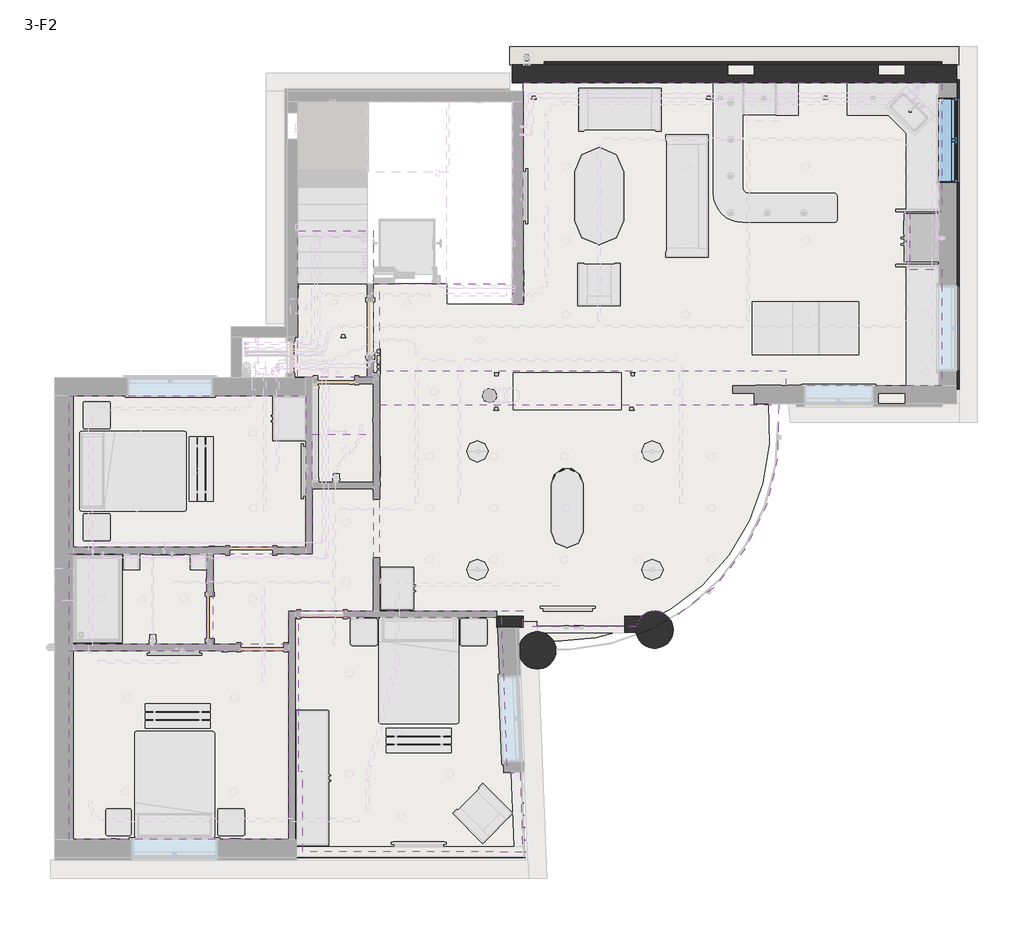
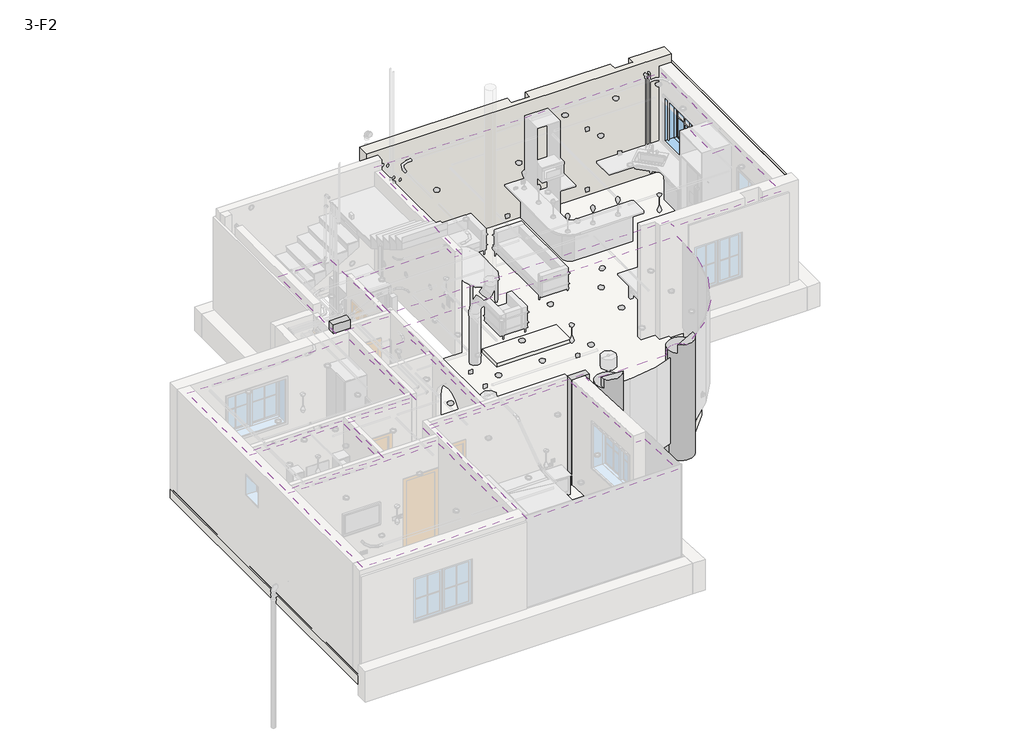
# One storey, part 3 of 12: 8 coverings, 5 columns, 4 walls, 2 slabs, 1 window.
"""IFC4 building model written with IfcOpenShell, lengths in millimetres."""

from ifc_helpers import new_model, si_unit, point, frame, frame_2d, origin, place, context, project, spatial, polyline, circle_curve, trimmed, segment, composite_curve, outline, extrude, faceted_brep, transform, mapped, element, save
from ifc_brep_helpers import plane_surface, cylinder_surface, revolved_surface, advanced_brep
from components import m_window_casement_double_1600_x_1300mm_8a1cf402

model = new_model("IFC4")

# Units and contexts
model_context = context("Model", 3, world=origin())
ifc_project = project(units=[si_unit("LENGTHUNIT", "METRE", prefix="MILLI")], contexts=[model_context])

# Site, building, storey
site = spatial("IfcSite", under=ifc_project)
building = spatial("IfcBuilding", under=site)
storey = spatial("IfcBuildingStorey", under=building, Name="3-F2", Elevation=6550.0)

# Columns
placement = place(None, origin())
element("IfcColumn", 1, ObjectType="M_Concrete-Rectangular-Column : 200 x470mm", at=placement, inside=storey, context=model_context, shape_type="SweptSolid", body=[
    extrude(outline(polyline([(-5057.4765921, 3134.4560655), (-5057.4765921, 3334.4560655), (-4587.4765921, 3334.4560655), (-4587.4765921, 3134.4560655), (-5057.4765921, 3134.4560655)])), frame((0.0, 0.0, 6550.0), z_axis=(0.0, 0.0, 1.0), x_axis=(1.0, 0.0, 0.0)), (0.0, 0.0, 1.0), 3350.0),
])
element("IfcColumn", 2, ObjectType="M_Concrete-Rectangular-Column : 200 x500mm", at=placement, inside=storey, context=model_context, shape_type="Brep", body=[
    faceted_brep([(-1127.3482991, -1357.1632352, 6550.0), (-1127.3482991, -1157.1632352, 6550.0), (-627.3482991, -1157.1632352, 6550.0), (-627.3482991, -1357.1632352, 6550.0), (-761.6689188, -1357.1632352, 6550.0), (-1101.9400272, -1357.1632352, 6550.0), (-1127.3482991, -1357.1632352, 9650.0), (-1127.3482991, -1157.1632352, 9650.0), (-627.3482991, -1157.1632352, 9650.0), (-627.3482991, -1357.1632352, 9650.0), (-761.6689188, -1357.1632352, 9650.0), (-1101.9400272, -1357.1632352, 9650.0)], [[[0, 1, 2, 3, 4, 5]], [[1, 0, 6, 7]], [[2, 1, 7, 8]], [[3, 2, 8, 9]], [[0, 5, 4, 3, 9, 10, 11, 6]], [[7, 6, 11, 10, 9, 8]]]),
])
element("IfcColumn", 3, ObjectType="M_Concrete-Rectangular-Column : 300 x300mm", at=placement, inside=storey, context=model_context, shape_type="SweptSolid", body=[
    extrude(outline(polyline([(1585.0321009, -1157.1632352), (1585.0321009, -1457.1632352), (1285.0321009, -1457.1632352), (1285.0321009, -1157.1632352), (1585.0321009, -1157.1632352)])), frame((0.0, 0.0, 6550.0), z_axis=(0.0, 0.0, 1.0), x_axis=(1.0, 0.0, 0.0)), (0.0, 0.0, 1.0), 2170.0),
])
element("IfcColumn", 4, ObjectType="M_Concrete-Round-Column : 700mm", at=placement, inside=storey, context=model_context, shape_type="AdvancedBrep", body=[
    advanced_brep(
    [(2191.661449, -1407.3470383, 6550.0), (1491.661449, -1407.3470383, 6550.0), (2191.661449, -1407.3470383, 9900.0), (2191.0757881, -1387.1079771, 9900.0), (1607.691221, -1667.6505773, 9900.0), (1607.691221, -1667.6505773, 9650.0), (1491.661449, -1407.3470383, 9650.0), (2191.0757881, -1387.1079771, 9650.0)],
    [
        (0, 1, circle_curve(frame((1841.661449, -1407.3470383, 6550.0), z_axis=(0.0, 0.0, -1.0), x_axis=(-1.0, 0.0, 0.0)), 350.0)),
        (1, 0, circle_curve(frame((1841.661449, -1407.3470383, 6550.0), z_axis=(0.0, 0.0, -1.0), x_axis=(-1.0, 0.0, 0.0)), 350.0)),
        (2, 3, circle_curve(frame((1841.661449, -1407.3470383, 9900.0), z_axis=(0.0, 0.0, 1.0), x_axis=(-1.0, 0.0, 0.0)), 350.0)),
        (3, 4, circle_curve(frame((41.3341283, 2336.4094323, 9900.0), z_axis=(0.0, 0.0, -1.0), x_axis=(1.0, 0.0, 0.0)), 4299.531498)),
        (4, 2, circle_curve(frame((1841.661449, -1407.3470383, 9900.0), z_axis=(0.0, 0.0, 1.0), x_axis=(-1.0, 0.0, 0.0)), 350.0)),
        (0, 2),
        (4, 5),
        (5, 6, circle_curve(frame((1841.661449, -1407.3470383, 9650.0), z_axis=(0.0, 0.0, -1.0), x_axis=(-1.0, 0.0, 0.0)), 350.0)),
        (6, 1),
        (6, 7, circle_curve(frame((1841.661449, -1407.3470383, 9650.0), z_axis=(0.0, 0.0, -1.0), x_axis=(-1.0, 0.0, 0.0)), 350.0)),
        (7, 3),
        (5, 7, circle_curve(frame((41.3341283, 2336.4094323, 9650.0), z_axis=(0.0, 0.0, 1.0), x_axis=(1.0, 0.0, 0.0)), 4299.531498)),
    ],
    [
        plane_surface(frame((1491.661449, -1407.3470383, 6550.0), z_axis=(0.0, 0.0, -1.0), x_axis=(0.0, 1.0, 0.0))),
        plane_surface(frame((1491.661449, -1407.3470383, 9900.0), z_axis=(0.0, 0.0, 1.0), x_axis=(0.0, -1.0, 0.0))),
        cylinder_surface(frame((1841.661449, -1407.3470383, 6550.0), z_axis=(0.0, 0.0, 1.0), x_axis=(-1.0, 0.0, 0.0)), 350.0),
        plane_surface(frame((-6107.4765921, 4642.9313171, 9650.0), z_axis=(0.0, 0.0, 1.0), x_axis=(0.0, 1.0, 0.0))),
        revolved_surface(polyline([(4340.8656263, 2336.4094323, 9650.0), (4340.8656263, 2336.4094323, 9900.0)]), (41.3341283, 2336.4094323, 9950.0), (0.0, 0.0, -1.0)),
    ],
    [
        (0, [[1, 2]]),
        (1, [[3, 4, 5]]),
        (2, [[-1, 6, -5, 7, 8, 9]]),
        (2, [[-2, -9, 10, 11, -3, -6]]),
        (3, [[12, -10, -8]]),
        (4, [[-12, -7, -4, -11]]),
    ],
),
])
element("IfcColumn", 5, ObjectType="M_Concrete-Round-Column : 700mm", at=placement, inside=storey, context=model_context, shape_type="AdvancedBrep", body=[
    advanced_brep(
    [(-11.9654842, -1796.5977201, 6550.0), (-711.9654842, -1796.5977201, 6550.0), (-627.4765921, -2024.64125, 9900.0), (-53.5545328, -1962.0748638, 9900.0), (-627.4765921, -1910.7853269, 9900.0), (-11.9654842, -1796.5977201, 9650.0), (-53.5545328, -1962.0748638, 9650.0), (-627.4765921, -2024.64125, 9650.0), (-711.9654842, -1796.5977201, 9650.0), (-627.4765921, -1910.7853269, 9650.0)],
    [
        (0, 1, circle_curve(frame((-361.9654842, -1796.5977201, 6550.0), z_axis=(0.0, 0.0, -1.0), x_axis=(1.0, 0.0, 0.0)), 350.0)),
        (1, 0, circle_curve(frame((-361.9654842, -1796.5977201, 6550.0), z_axis=(0.0, 0.0, -1.0), x_axis=(1.0, 0.0, 0.0)), 350.0)),
        (2, 3, circle_curve(frame((-361.9654842, -1796.5977201, 9900.0), z_axis=(0.0, 0.0, 1.0), x_axis=(1.0, 0.0, 0.0)), 350.0)),
        (3, 4, circle_curve(frame((41.3341283, 2336.4094323, 9900.0), z_axis=(0.0, 0.0, -1.0), x_axis=(1.0, 0.0, 0.0)), 4299.531498)),
        (4, 2),
        (0, 5),
        (5, 6, circle_curve(frame((-361.9654842, -1796.5977201, 9650.0), z_axis=(0.0, 0.0, -1.0), x_axis=(1.0, 0.0, 0.0)), 350.0)),
        (6, 3),
        (2, 7),
        (7, 8, circle_curve(frame((-361.9654842, -1796.5977201, 9650.0), z_axis=(0.0, 0.0, -1.0), x_axis=(1.0, 0.0, 0.0)), 350.0)),
        (8, 1),
        (8, 5, circle_curve(frame((-361.9654842, -1796.5977201, 9650.0), z_axis=(0.0, 0.0, -1.0), x_axis=(1.0, 0.0, 0.0)), 350.0)),
        (7, 9),
        (9, 6, circle_curve(frame((41.3341283, 2336.4094323, 9650.0), z_axis=(0.0, 0.0, 1.0), x_axis=(1.0, 0.0, 0.0)), 4299.531498)),
        (4, 9),
    ],
    [
        plane_surface(frame((-11.9654842, -1796.5977201, 6550.0), z_axis=(0.0, 0.0, -1.0), x_axis=(0.0, 1.0, 0.0))),
        plane_surface(frame((-11.9654842, -1796.5977201, 9900.0), z_axis=(0.0, 0.0, 1.0), x_axis=(0.0, -1.0, 0.0))),
        cylinder_surface(frame((-361.9654842, -1796.5977201, 6550.0), z_axis=(0.0, 0.0, 1.0), x_axis=(1.0, 0.0, 0.0)), 350.0),
        plane_surface(frame((-6107.4765921, 4642.9313171, 9650.0), z_axis=(0.0, 0.0, 1.0), x_axis=(0.0, 1.0, 0.0))),
        plane_surface(frame((-627.4765921, -1910.7853269, 9650.0), z_axis=(-1.0, 0.0, 0.0), x_axis=(0.0, 0.0, 1.0))),
        revolved_surface(polyline([(4340.8656263, 2336.4094323, 9650.0), (4340.8656263, 2336.4094323, 9900.0)]), (41.3341283, 2336.4094323, 9950.0), (0.0, 0.0, -1.0)),
    ],
    [
        (0, [[1, 2]]),
        (1, [[3, 4, 5]]),
        (2, [[-1, 6, 7, 8, -3, 9, 10, 11]]),
        (2, [[-2, -11, 12, -6]]),
        (3, [[13, 14, -7, -12, -10]]),
        (4, [[-13, -9, -5, 15]]),
        (5, [[-14, -15, -4, -8]]),
    ],
),
])

# Coverings
element("IfcCovering", 6, ObjectType="Plain", at=placement, inside=storey, context=model_context, shape_type="SweptSolid", body=[
    extrude(outline(polyline([(7235.5234079, 8861.6620874), (7235.5234079, 6437.9358549), (6635.5234079, 6437.9358549), (6635.5234079, 5357.9486583), (7235.5234079, 5357.9486583), (7235.5234079, 3170.7214801), (4312.5234079, 3170.7214801), (4312.5234079, 3441.636834), (-3317.6151583, 3441.636834), (-3317.6151583, 4204.4560655), (-3317.6151583, 5084.4560655), (-827.4765921, 5084.4560655), (-827.4765921, 4701.6620874), (-627.4765921, 4701.6620874), (-627.4765921, 8861.6620874), (7235.5234079, 8861.6620874)]), holes=[composite_curve([segment(trimmed(circle_curve(frame_2d((6925.5234079, 7285.2358549)), 75.0), [point((6850.5234079, 7285.2358549))], [point((7000.5234079, 7285.2358549))], True, "CARTESIAN"), True, "CONTINUOUS"), segment(trimmed(circle_curve(frame_2d((6925.5234079, 7285.2358549)), 75.0), [point((7000.5234079, 7285.2358549))], [point((6850.5234079, 7285.2358549))], True, "CARTESIAN"), True, "CONTINUOUS")], self_intersect=False), composite_curve([segment(trimmed(circle_curve(frame_2d((6925.5234079, 4510.6486583)), 75.0), [point((6850.5234079, 4510.6486583))], [point((7000.5234079, 4510.6486583))], True, "CARTESIAN"), True, "CONTINUOUS"), segment(trimmed(circle_curve(frame_2d((6925.5234079, 4510.6486583)), 75.0), [point((7000.5234079, 4510.6486583))], [point((6850.5234079, 4510.6486583))], True, "CARTESIAN"), True, "CONTINUOUS")], self_intersect=False), composite_curve([segment(trimmed(circle_curve(frame_2d((4676.2824473, 5897.9422566)), 75.0), [point((4601.2824473, 5897.9422566))], [point((4751.2824473, 5897.9422566))], True, "CARTESIAN"), True, "CONTINUOUS"), segment(trimmed(circle_curve(frame_2d((4676.2824473, 5897.9422566)), 75.0), [point((4751.2824473, 5897.9422566))], [point((4601.2824473, 5897.9422566))], True, "CARTESIAN"), True, "CONTINUOUS")], self_intersect=False), composite_curve([segment(trimmed(circle_curve(frame_2d((4676.2824473, 7285.2358549)), 75.0), [point((4751.2824473, 7285.2358549))], [point((4601.2824473, 7285.2358549))], True, "CARTESIAN"), True, "CONTINUOUS"), segment(trimmed(circle_curve(frame_2d((4676.2824473, 7285.2358549)), 75.0), [point((4601.2824473, 7285.2358549))], [point((4751.2824473, 7285.2358549))], True, "CARTESIAN"), True, "CONTINUOUS")], self_intersect=False), composite_curve([segment(trimmed(circle_curve(frame_2d((2427.0414867, 4510.6486583)), 75.0), [point((2352.0414867, 4510.6486583))], [point((2502.0414867, 4510.6486583))], True, "CARTESIAN"), True, "CONTINUOUS"), segment(trimmed(circle_curve(frame_2d((2427.0414867, 4510.6486583)), 75.0), [point((2502.0414867, 4510.6486583))], [point((2352.0414867, 4510.6486583))], True, "CARTESIAN"), True, "CONTINUOUS")], self_intersect=False), composite_curve([segment(trimmed(circle_curve(frame_2d((2427.0414867, 5897.9422566)), 75.0), [point((2352.0414867, 5897.9422566))], [point((2502.0414867, 5897.9422566))], True, "CARTESIAN"), True, "CONTINUOUS"), segment(trimmed(circle_curve(frame_2d((2427.0414867, 5897.9422566)), 75.0), [point((2502.0414867, 5897.9422566))], [point((2352.0414867, 5897.9422566))], True, "CARTESIAN"), True, "CONTINUOUS")], self_intersect=False), composite_curve([segment(trimmed(circle_curve(frame_2d((2427.0414867, 7285.2358549)), 75.0), [point((2502.0414867, 7285.2358549))], [point((2352.0414867, 7285.2358549))], True, "CARTESIAN"), True, "CONTINUOUS"), segment(trimmed(circle_curve(frame_2d((2427.0414867, 7285.2358549)), 75.0), [point((2352.0414867, 7285.2358549))], [point((2502.0414867, 7285.2358549))], True, "CARTESIAN"), True, "CONTINUOUS")], self_intersect=False), composite_curve([segment(trimmed(circle_curve(frame_2d((177.8005261, 4510.6486583)), 75.0), [point((102.8005261, 4510.6486583))], [point((252.8005261, 4510.6486583))], True, "CARTESIAN"), True, "CONTINUOUS"), segment(trimmed(circle_curve(frame_2d((177.8005261, 4510.6486583)), 75.0), [point((252.8005261, 4510.6486583))], [point((102.8005261, 4510.6486583))], True, "CARTESIAN"), True, "CONTINUOUS")], self_intersect=False), composite_curve([segment(trimmed(circle_curve(frame_2d((177.8005261, 5897.9422566)), 75.0), [point((102.8005261, 5897.9422566))], [point((252.8005261, 5897.9422566))], True, "CARTESIAN"), True, "CONTINUOUS"), segment(trimmed(circle_curve(frame_2d((177.8005261, 5897.9422566)), 75.0), [point((252.8005261, 5897.9422566))], [point((102.8005261, 5897.9422566))], True, "CARTESIAN"), True, "CONTINUOUS")], self_intersect=False), composite_curve([segment(trimmed(circle_curve(frame_2d((177.8005261, 7285.2358549)), 75.0), [point((252.8005261, 7285.2358549))], [point((102.8005261, 7285.2358549))], True, "CARTESIAN"), True, "CONTINUOUS"), segment(trimmed(circle_curve(frame_2d((177.8005261, 7285.2358549)), 75.0), [point((102.8005261, 7285.2358549))], [point((252.8005261, 7285.2358549))], True, "CARTESIAN"), True, "CONTINUOUS")], self_intersect=False), composite_curve([segment(trimmed(circle_curve(frame_2d((5759.0971754, 8451.6620874)), 75.0), [point((5759.0971754, 8376.6620874))], [point((5759.0971754, 8526.6620874))], True, "CARTESIAN"), True, "CONTINUOUS"), segment(trimmed(circle_curve(frame_2d((5759.0971754, 8451.6620874)), 75.0), [point((5759.0971754, 8526.6620874))], [point((5759.0971754, 8376.6620874))], True, "CARTESIAN"), True, "CONTINUOUS")], self_intersect=False), composite_curve([segment(trimmed(circle_curve(frame_2d((-2807.4765921, 4726.4560655)), 75.0), [point((-2882.4765921, 4726.4560655))], [point((-2732.4765921, 4726.4560655))], True, "CARTESIAN"), True, "CONTINUOUS"), segment(trimmed(circle_curve(frame_2d((-2807.4765921, 4726.4560655)), 75.0), [point((-2732.4765921, 4726.4560655))], [point((-2882.4765921, 4726.4560655))], True, "CARTESIAN"), True, "CONTINUOUS")], self_intersect=False), composite_curve([segment(trimmed(circle_curve(frame_2d((6925.5234079, 3441.636834)), 75.0), [point((6850.5234079, 3441.636834))], [point((7000.5234079, 3441.636834))], True, "CARTESIAN"), True, "CONTINUOUS"), segment(trimmed(circle_curve(frame_2d((6925.5234079, 3441.636834)), 75.0), [point((7000.5234079, 3441.636834))], [point((6850.5234079, 3441.636834))], True, "CARTESIAN"), True, "CONTINUOUS")], self_intersect=False), composite_curve([segment(trimmed(circle_curve(frame_2d((6925.5234079, 8451.6620874)), 75.0), [point((6850.5234079, 8451.6620874))], [point((7000.5234079, 8451.6620874))], True, "CARTESIAN"), True, "CONTINUOUS"), segment(trimmed(circle_curve(frame_2d((6925.5234079, 8451.6620874)), 75.0), [point((7000.5234079, 8451.6620874))], [point((6850.5234079, 8451.6620874))], True, "CARTESIAN"), True, "CONTINUOUS")], self_intersect=False), composite_curve([segment(trimmed(circle_curve(frame_2d((4364.4971754, 8451.6620874)), 75.0), [point((4364.4971754, 8376.6620874))], [point((4364.4971754, 8526.6620874))], True, "CARTESIAN"), True, "CONTINUOUS"), segment(trimmed(circle_curve(frame_2d((4364.4971754, 8451.6620874)), 75.0), [point((4364.4971754, 8526.6620874))], [point((4364.4971754, 8376.6620874))], True, "CARTESIAN"), True, "CONTINUOUS")], self_intersect=False)]), frame((0.0, 0.0, 9450.0), z_axis=(0.0, 0.0, 1.0), x_axis=(1.0, 0.0, 0.0)), (0.0, 0.0, 1.0), 12.0),
])
element("IfcCovering", 7, ObjectType="Plain", at=placement, inside=storey, context=model_context, shape_type="SweptSolid", body=[
    extrude(outline(composite_curve([segment(polyline([(4169.1002411, 2811.636834), (4147.2558901, 1806.6689939), (3955.4172345, 962.9964388), (3544.1689772, 114.6100968), (2953.7829196, -616.7390717), (2139.821213, -1224.0419508)]), True, "CONTINUOUS"), segment(trimmed(circle_curve(frame_2d((1841.661449, -1407.3470383)), 350.0), [point((2139.821213, -1224.0419508))], [point((1496.3455737, -1350.2773764))], True, "CARTESIAN"), True, "CONTINUOUS"), segment(polyline([(1496.3455737, -1350.2773764), (424.0164993, -1350.2773764), (-627.3482991, -1350.2773764), (-627.3482991, -1057.1632352), (-3317.6151583, -1057.1632352), (-3317.6151583, 2811.636834), (4169.1002411, 2811.636834)]), True, "CONTINUOUS")], self_intersect=False), holes=[composite_curve([segment(trimmed(circle_curve(frame_2d((2906.3219274, 1844.6820281)), 75.0), [point((2831.3219274, 1844.6820281))], [point((2981.3219274, 1844.6820281))], True, "CARTESIAN"), True, "CONTINUOUS"), segment(trimmed(circle_curve(frame_2d((2906.3219274, 1844.6820281)), 75.0), [point((2981.3219274, 1844.6820281))], [point((2831.3219274, 1844.6820281))], True, "CARTESIAN"), True, "CONTINUOUS")], self_intersect=False), composite_curve([segment(trimmed(circle_curve(frame_2d((2906.3219274, -89.7180065)), 75.0), [point((2831.3219274, -89.7180065))], [point((2981.3219274, -89.7180065))], True, "CARTESIAN"), True, "CONTINUOUS"), segment(trimmed(circle_curve(frame_2d((2906.3219274, -89.7180065)), 75.0), [point((2981.3219274, -89.7180065))], [point((2831.3219274, -89.7180065))], True, "CARTESIAN"), True, "CONTINUOUS")], self_intersect=False), composite_curve([segment(trimmed(circle_curve(frame_2d((2906.3219274, 877.7272222)), 75.0), [point((2831.3219274, 877.7272222))], [point((2981.3219274, 877.7272222))], True, "CARTESIAN"), True, "CONTINUOUS"), segment(trimmed(circle_curve(frame_2d((2906.3219274, 877.7272222)), 75.0), [point((2981.3219274, 877.7272222))], [point((2831.3219274, 877.7272222))], True, "CARTESIAN"), True, "CONTINUOUS")], self_intersect=False), composite_curve([segment(trimmed(circle_curve(frame_2d((-2390.7208752, 1844.6820281)), 75.0), [point((-2465.7208752, 1844.6820281))], [point((-2315.7208752, 1844.6820281))], True, "CARTESIAN"), True, "CONTINUOUS"), segment(trimmed(circle_curve(frame_2d((-2390.7208752, 1844.6820281)), 75.0), [point((-2315.7208752, 1844.6820281))], [point((-2465.7208752, 1844.6820281))], True, "CARTESIAN"), True, "CONTINUOUS")], self_intersect=False), composite_curve([segment(trimmed(circle_curve(frame_2d((-2390.7208752, 877.7272222)), 75.0), [point((-2465.7208752, 877.7272222))], [point((-2315.7208752, 877.7272222))], True, "CARTESIAN"), True, "CONTINUOUS"), segment(trimmed(circle_curve(frame_2d((-2390.7208752, 877.7272222)), 75.0), [point((-2315.7208752, 877.7272222))], [point((-2465.7208752, 877.7272222))], True, "CARTESIAN"), True, "CONTINUOUS")], self_intersect=False), composite_curve([segment(trimmed(circle_curve(frame_2d((-2390.7208752, -89.7180065)), 75.0), [point((-2465.7208752, -89.7180065))], [point((-2315.7208752, -89.7180065))], True, "CARTESIAN"), True, "CONTINUOUS"), segment(trimmed(circle_curve(frame_2d((-2390.7208752, -89.7180065)), 75.0), [point((-2315.7208752, -89.7180065))], [point((-2465.7208752, -89.7180065))], True, "CARTESIAN"), True, "CONTINUOUS")], self_intersect=False), composite_curve([segment(trimmed(circle_curve(frame_2d((147.3848417, -89.7180065)), 75.0), [point((72.3848417, -89.7180065))], [point((222.3848417, -89.7180065))], True, "CARTESIAN"), True, "CONTINUOUS"), segment(trimmed(circle_curve(frame_2d((147.3848417, -89.7180065)), 75.0), [point((222.3848417, -89.7180065))], [point((72.3848417, -89.7180065))], True, "CARTESIAN"), True, "CONTINUOUS")], self_intersect=False), composite_curve([segment(trimmed(circle_curve(frame_2d((147.3848417, 1844.6820281)), 75.0), [point((72.3848417, 1844.6820281))], [point((222.3848417, 1844.6820281))], True, "CARTESIAN"), True, "CONTINUOUS"), segment(trimmed(circle_curve(frame_2d((147.3848417, 1844.6820281)), 75.0), [point((222.3848417, 1844.6820281))], [point((72.3848417, 1844.6820281))], True, "CARTESIAN"), True, "CONTINUOUS")], self_intersect=False), composite_curve([segment(trimmed(circle_curve(frame_2d((1542.0612267, 877.7272222)), 75.0), [point((1467.0612267, 877.7272222))], [point((1617.0612267, 877.7272222))], True, "CARTESIAN"), True, "CONTINUOUS"), segment(trimmed(circle_curve(frame_2d((1542.0612267, 877.7272222)), 75.0), [point((1617.0612267, 877.7272222))], [point((1467.0612267, 877.7272222))], True, "CARTESIAN"), True, "CONTINUOUS")], self_intersect=False), composite_curve([segment(trimmed(circle_curve(frame_2d((1542.0612267, -89.7180065)), 75.0), [point((1467.0612267, -89.7180065))], [point((1617.0612267, -89.7180065))], True, "CARTESIAN"), True, "CONTINUOUS"), segment(trimmed(circle_curve(frame_2d((1542.0612267, -89.7180065)), 75.0), [point((1617.0612267, -89.7180065))], [point((1467.0612267, -89.7180065))], True, "CARTESIAN"), True, "CONTINUOUS")], self_intersect=False), composite_curve([segment(trimmed(circle_curve(frame_2d((1542.0612267, 1844.6820281)), 75.0), [point((1467.0612267, 1844.6820281))], [point((1617.0612267, 1844.6820281))], True, "CARTESIAN"), True, "CONTINUOUS"), segment(trimmed(circle_curve(frame_2d((1542.0612267, 1844.6820281)), 75.0), [point((1617.0612267, 1844.6820281))], [point((1467.0612267, 1844.6820281))], True, "CARTESIAN"), True, "CONTINUOUS")], self_intersect=False), composite_curve([segment(trimmed(circle_curve(frame_2d((-1186.4601746, 877.7272222)), 75.0), [point((-1111.4601746, 877.7272222))], [point((-1261.4601746, 877.7272222))], True, "CARTESIAN"), True, "CONTINUOUS"), segment(trimmed(circle_curve(frame_2d((-1186.4601746, 877.7272222)), 75.0), [point((-1261.4601746, 877.7272222))], [point((-1111.4601746, 877.7272222))], True, "CARTESIAN"), True, "CONTINUOUS")], self_intersect=False), composite_curve([segment(trimmed(circle_curve(frame_2d((-1186.4601746, -89.7180065)), 75.0), [point((-1111.4601746, -89.7180065))], [point((-1261.4601746, -89.7180065))], True, "CARTESIAN"), True, "CONTINUOUS"), segment(trimmed(circle_curve(frame_2d((-1186.4601746, -89.7180065)), 75.0), [point((-1261.4601746, -89.7180065))], [point((-1111.4601746, -89.7180065))], True, "CARTESIAN"), True, "CONTINUOUS")], self_intersect=False), composite_curve([segment(trimmed(circle_curve(frame_2d((-1186.4601746, 1844.6820281)), 75.0), [point((-1111.4601746, 1844.6820281))], [point((-1261.4601746, 1844.6820281))], True, "CARTESIAN"), True, "CONTINUOUS"), segment(trimmed(circle_curve(frame_2d((-1186.4601746, 1844.6820281)), 75.0), [point((-1261.4601746, 1844.6820281))], [point((-1111.4601746, 1844.6820281))], True, "CARTESIAN"), True, "CONTINUOUS")], self_intersect=False)]), frame((0.0, 0.0, 9450.0), z_axis=(0.0, 0.0, 1.0), x_axis=(1.0, 0.0, 0.0)), (0.0, 0.0, 1.0), 12.0),
])
element("IfcCovering", 8, ObjectType="Plain", at=placement, inside=storey, context=model_context, shape_type="SweptSolid", body=[
    extrude(outline(polyline([(-9147.4765921, 2986.4863231), (-4707.4765921, 2986.4863231), (-4707.4765921, 140.1275048), (-9147.4765921, 140.1275048), (-9147.4765921, 2986.4863231)]), holes=[composite_curve([segment(trimmed(circle_curve(frame_2d((-5710.0538644, 2286.3055512)), 75.0), [point((-5785.0538644, 2286.3055512))], [point((-5635.0538644, 2286.3055512))], True, "CARTESIAN"), True, "CONTINUOUS"), segment(trimmed(circle_curve(frame_2d((-5710.0538644, 2286.3055512)), 75.0), [point((-5635.0538644, 2286.3055512))], [point((-5785.0538644, 2286.3055512))], True, "CARTESIAN"), True, "CONTINUOUS")], self_intersect=False), composite_curve([segment(trimmed(circle_curve(frame_2d((-7870.5121698, 2286.3055512)), 75.0), [point((-7945.5121698, 2286.3055512))], [point((-7795.5121698, 2286.3055512))], True, "CARTESIAN"), True, "CONTINUOUS"), segment(trimmed(circle_curve(frame_2d((-7870.5121698, 2286.3055512)), 75.0), [point((-7795.5121698, 2286.3055512))], [point((-7945.5121698, 2286.3055512))], True, "CARTESIAN"), True, "CONTINUOUS")], self_intersect=False), composite_curve([segment(trimmed(circle_curve(frame_2d((-7870.5121698, 879.1412709)), 75.0), [point((-7945.5121698, 879.1412709))], [point((-7795.5121698, 879.1412709))], True, "CARTESIAN"), True, "CONTINUOUS"), segment(trimmed(circle_curve(frame_2d((-7870.5121698, 879.1412709)), 75.0), [point((-7795.5121698, 879.1412709))], [point((-7945.5121698, 879.1412709))], True, "CARTESIAN"), True, "CONTINUOUS")], self_intersect=False), composite_curve([segment(trimmed(circle_curve(frame_2d((-5690.0538644, 879.1412709)), 75.0), [point((-5765.0538644, 879.1412709))], [point((-5615.0538644, 879.1412709))], True, "CARTESIAN"), True, "CONTINUOUS"), segment(trimmed(circle_curve(frame_2d((-5690.0538644, 879.1412709)), 75.0), [point((-5615.0538644, 879.1412709))], [point((-5765.0538644, 879.1412709))], True, "CARTESIAN"), True, "CONTINUOUS")], self_intersect=False)]), frame((0.0, 0.0, 9450.0), z_axis=(0.0, 0.0, 1.0), x_axis=(1.0, 0.0, 0.0)), (0.0, 0.0, 1.0), 12.0),
])
element("IfcCovering", 9, ObjectType="Plain", at=placement, inside=storey, context=model_context, shape_type="SweptSolid", body=[
    extrude(outline(polyline([(-9147.4765921, 20.1275048), (-6569.7814219, 20.1275048), (-6569.7814219, -1679.8724951), (-9147.4765921, -1679.8724951), (-9147.4765921, 20.1275048)]), holes=[composite_curve([segment(trimmed(circle_curve(frame_2d((-8539.0013994, -817.1632352)), 75.0), [point((-8614.0013994, -817.1632352))], [point((-8464.0013994, -817.1632352))], True, "CARTESIAN"), True, "CONTINUOUS"), segment(trimmed(circle_curve(frame_2d((-8539.0013994, -817.1632352)), 75.0), [point((-8464.0013994, -817.1632352))], [point((-8614.0013994, -817.1632352))], True, "CARTESIAN"), True, "CONTINUOUS")], self_intersect=False), composite_curve([segment(trimmed(circle_curve(frame_2d((-7722.8155815, -99.8724952)), 75.0), [point((-7797.8155815, -99.8724952))], [point((-7647.8155815, -99.8724952))], True, "CARTESIAN"), True, "CONTINUOUS"), segment(trimmed(circle_curve(frame_2d((-7722.8155815, -99.8724952)), 75.0), [point((-7647.8155815, -99.8724952))], [point((-7797.8155815, -99.8724952))], True, "CARTESIAN"), True, "CONTINUOUS")], self_intersect=False), composite_curve([segment(trimmed(circle_curve(frame_2d((-6866.9658403, -99.8724952)), 75.0), [point((-6791.9658403, -99.8724952))], [point((-6941.9658403, -99.8724952))], True, "CARTESIAN"), True, "CONTINUOUS"), segment(trimmed(circle_curve(frame_2d((-6866.9658403, -99.8724952)), 75.0), [point((-6941.9658403, -99.8724952))], [point((-6791.9658403, -99.8724952))], True, "CARTESIAN"), True, "CONTINUOUS")], self_intersect=False), composite_curve([segment(trimmed(circle_curve(frame_2d((-6992.9330801, -817.1632352)), 75.0), [point((-6917.9330801, -817.1632352))], [point((-7067.9330801, -817.1632352))], True, "CARTESIAN"), True, "CONTINUOUS"), segment(trimmed(circle_curve(frame_2d((-6992.9330801, -817.1632352)), 75.0), [point((-7067.9330801, -817.1632352))], [point((-6917.9330801, -817.1632352))], True, "CARTESIAN"), True, "CONTINUOUS")], self_intersect=False)]), frame((0.0, 0.0, 9450.0), z_axis=(0.0, 0.0, 1.0), x_axis=(1.0, 0.0, 0.0)), (0.0, 0.0, 1.0), 12.0),
])
element("IfcCovering", 10, ObjectType="Plain", at=placement, inside=storey, context=model_context, shape_type="SweptSolid", body=[
    extrude(outline(polyline([(-5025.4457195, -1799.8724951), (-5025.4457195, -5344.0873245), (-9147.4765921, -5344.0873245), (-9147.4765921, -1799.8724951), (-5025.4457195, -1799.8724951)]), holes=[composite_curve([segment(trimmed(circle_curve(frame_2d((-6045.5642266, -2676.9083614)), 75.0), [point((-6120.5642266, -2676.9083614))], [point((-5970.5642266, -2676.9083614))], True, "CARTESIAN"), True, "CONTINUOUS"), segment(trimmed(circle_curve(frame_2d((-6045.5642266, -2676.9083614)), 75.0), [point((-5970.5642266, -2676.9083614))], [point((-6120.5642266, -2676.9083614))], True, "CARTESIAN"), True, "CONTINUOUS")], self_intersect=False), composite_curve([segment(trimmed(circle_curve(frame_2d((-8059.0013994, -2676.9083614)), 75.0), [point((-8134.0013994, -2676.9083614))], [point((-7984.0013994, -2676.9083614))], True, "CARTESIAN"), True, "CONTINUOUS"), segment(trimmed(circle_curve(frame_2d((-8059.0013994, -2676.9083614)), 75.0), [point((-7984.0013994, -2676.9083614))], [point((-8134.0013994, -2676.9083614))], True, "CARTESIAN"), True, "CONTINUOUS")], self_intersect=False), composite_curve([segment(trimmed(circle_curve(frame_2d((-8107.4765921, -4449.0157761)), 75.0), [point((-8182.4765921, -4449.0157761))], [point((-8032.4765921, -4449.0157761))], True, "CARTESIAN"), True, "CONTINUOUS"), segment(trimmed(circle_curve(frame_2d((-8107.4765921, -4449.0157761)), 75.0), [point((-8032.4765921, -4449.0157761))], [point((-8182.4765921, -4449.0157761))], True, "CARTESIAN"), True, "CONTINUOUS")], self_intersect=False), composite_curve([segment(trimmed(circle_curve(frame_2d((-6065.5642266, -4449.0157761)), 75.0), [point((-6140.5642266, -4449.0157761))], [point((-5990.5642266, -4449.0157761))], True, "CARTESIAN"), True, "CONTINUOUS"), segment(trimmed(circle_curve(frame_2d((-6065.5642266, -4449.0157761)), 75.0), [point((-5990.5642266, -4449.0157761))], [point((-6140.5642266, -4449.0157761))], True, "CARTESIAN"), True, "CONTINUOUS")], self_intersect=False)]), frame((0.0, 0.0, 9450.0), z_axis=(0.0, 0.0, 1.0), x_axis=(1.0, 0.0, 0.0)), (0.0, 0.0, 1.0), 12.0),
])
element("IfcCovering", 11, ObjectType="Plain", at=placement, inside=storey, context=model_context, shape_type="SweptSolid", body=[
    extrude(outline(polyline([(-3437.6151583, 2260.1275048), (-3437.6151583, -1057.1632352), (-5025.4457195, -1057.1632352), (-5025.4457195, -1679.8724951), (-6449.7814219, -1679.8724951), (-6449.7814219, 20.1275048), (-4587.4765921, 20.1275048), (-4587.4765921, 2260.1275048), (-3437.6151583, 2260.1275048)]), holes=[composite_curve([segment(trimmed(circle_curve(frame_2d((-3954.5706461, 620.1275048)), 75.0), [point((-4029.5706461, 620.1275048))], [point((-3879.5706461, 620.1275048))], True, "CARTESIAN"), True, "CONTINUOUS"), segment(trimmed(circle_curve(frame_2d((-3954.5706461, 620.1275048)), 75.0), [point((-3879.5706461, 620.1275048))], [point((-4029.5706461, 620.1275048))], True, "CARTESIAN"), True, "CONTINUOUS")], self_intersect=False), composite_curve([segment(trimmed(circle_curve(frame_2d((-5707.6135707, -829.8724951)), 75.0), [point((-5782.6135707, -829.8724951))], [point((-5632.6135707, -829.8724951))], True, "CARTESIAN"), True, "CONTINUOUS"), segment(trimmed(circle_curve(frame_2d((-5707.6135707, -829.8724951)), 75.0), [point((-5632.6135707, -829.8724951))], [point((-5782.6135707, -829.8724951))], True, "CARTESIAN"), True, "CONTINUOUS")], self_intersect=False), composite_curve([segment(trimmed(circle_curve(frame_2d((-3954.5706461, -518.5178652)), 75.0), [point((-4029.5706461, -518.5178652))], [point((-3879.5706461, -518.5178652))], True, "CARTESIAN"), True, "CONTINUOUS"), segment(trimmed(circle_curve(frame_2d((-3954.5706461, -518.5178652)), 75.0), [point((-3879.5706461, -518.5178652))], [point((-4029.5706461, -518.5178652))], True, "CARTESIAN"), True, "CONTINUOUS")], self_intersect=False), composite_curve([segment(trimmed(circle_curve(frame_2d((-3954.5706461, 1960.1275048)), 75.0), [point((-4029.5706461, 1960.1275048))], [point((-3879.5706461, 1960.1275048))], True, "CARTESIAN"), True, "CONTINUOUS"), segment(trimmed(circle_curve(frame_2d((-3954.5706461, 1960.1275048)), 75.0), [point((-3879.5706461, 1960.1275048))], [point((-4029.5706461, 1960.1275048))], True, "CARTESIAN"), True, "CONTINUOUS")], self_intersect=False)]), frame((0.0, 0.0, 9450.0), z_axis=(0.0, 0.0, 1.0), x_axis=(1.0, 0.0, 0.0)), (0.0, 0.0, 1.0), 12.0),
])
element("IfcCovering", 12, ObjectType="Plain", at=placement, inside=storey, context=model_context, shape_type="SweptSolid", body=[
    extrude(outline(polyline([(-1039.7459815, -1174.6238954), (-929.9018899, -4091.1833617), (-681.0785886, -4087.3227727), (-641.9156403, -5582.465151), (-4766.0856881, -5573.0756052), (-4762.6765329, -4075.6724318), (-4842.6763255, -4075.4902953), (-4836.0522115, -1165.9808009), (-1039.7459815, -1174.6238954)]), holes=[composite_curve([segment(trimmed(circle_curve(frame_2d((-3896.69683, -2222.3889317)), 75.0), [point((-3971.69683, -2222.3889317))], [point((-3821.69683, -2222.3889317))], True, "CARTESIAN"), True, "CONTINUOUS"), segment(trimmed(circle_curve(frame_2d((-3896.69683, -2222.3889317)), 75.0), [point((-3821.69683, -2222.3889317))], [point((-3971.69683, -2222.3889317))], True, "CARTESIAN"), True, "CONTINUOUS")], self_intersect=False), composite_curve([segment(trimmed(circle_curve(frame_2d((-1987.6481198, -2202.3889317)), 75.0), [point((-2062.6481198, -2202.3889317))], [point((-1912.6481198, -2202.3889317))], True, "CARTESIAN"), True, "CONTINUOUS"), segment(trimmed(circle_curve(frame_2d((-1987.6481198, -2202.3889317)), 75.0), [point((-1912.6481198, -2202.3889317))], [point((-2062.6481198, -2202.3889317))], True, "CARTESIAN"), True, "CONTINUOUS")], self_intersect=False), composite_curve([segment(trimmed(circle_curve(frame_2d((-2007.6481198, -4122.293181)), 75.0), [point((-2082.6481198, -4122.293181))], [point((-1932.6481198, -4122.293181))], True, "CARTESIAN"), True, "CONTINUOUS"), segment(trimmed(circle_curve(frame_2d((-2007.6481198, -4122.293181)), 75.0), [point((-1932.6481198, -4122.293181))], [point((-2082.6481198, -4122.293181))], True, "CARTESIAN"), True, "CONTINUOUS")], self_intersect=False), composite_curve([segment(trimmed(circle_curve(frame_2d((-3896.69683, -4122.293181)), 75.0), [point((-3971.69683, -4122.293181))], [point((-3821.69683, -4122.293181))], True, "CARTESIAN"), True, "CONTINUOUS"), segment(trimmed(circle_curve(frame_2d((-3896.69683, -4122.293181)), 75.0), [point((-3821.69683, -4122.293181))], [point((-3971.69683, -4122.293181))], True, "CARTESIAN"), True, "CONTINUOUS")], self_intersect=False), composite_curve([segment(trimmed(circle_curve(frame_2d((-2917.4929186, -4915.2368738)), 75.0), [point((-2992.4929186, -4915.2368738))], [point((-2842.4929186, -4915.2368738))], True, "CARTESIAN"), True, "CONTINUOUS"), segment(trimmed(circle_curve(frame_2d((-2917.4929186, -4915.2368738)), 75.0), [point((-2842.4929186, -4915.2368738))], [point((-2992.4929186, -4915.2368738))], True, "CARTESIAN"), True, "CONTINUOUS")], self_intersect=False)]), frame((0.0, 0.0, 9450.0), z_axis=(0.0, 0.0, 1.0), x_axis=(1.0, 0.0, 0.0)), (0.0, 0.0, 1.0), 12.0),
])
element("IfcCovering", 13, ObjectType="Plain", at=placement, inside=storey, context=model_context, shape_type="SweptSolid", body=[
    extrude(outline(polyline([(-3437.6151583, 3334.4560655), (-4857.4765921, 3334.4560655), (-4857.4765921, 6084.4560655), (-3437.6151583, 6084.4560655), (-3437.6151583, 3334.4560655)]), holes=[composite_curve([segment(trimmed(circle_curve(frame_2d((-4187.5458752, 4726.4560655)), 75.0), [point((-4262.5458752, 4726.4560655))], [point((-4112.5458752, 4726.4560655))], True, "CARTESIAN"), True, "CONTINUOUS"), segment(trimmed(circle_curve(frame_2d((-4187.5458752, 4726.4560655)), 75.0), [point((-4112.5458752, 4726.4560655))], [point((-4262.5458752, 4726.4560655))], True, "CARTESIAN"), True, "CONTINUOUS")], self_intersect=False)]), frame((0.0, 0.0, 9450.0), z_axis=(0.0, 0.0, 1.0), x_axis=(1.0, 0.0, 0.0)), (0.0, 0.0, 1.0), 12.0),
])

# Slabs
element("IfcSlab", 14, ObjectType="Generic 100", at=placement, inside=storey, context=model_context, shape_type="SweptSolid", body=[
    extrude(outline(polyline([(1212.5234079, 3412.6176449), (1212.5234079, 2722.6176449), (-817.6151583, 2722.6176449), (-817.6151583, 3412.6176449), (1212.5234079, 3412.6176449)])), frame((0.0, 0.0, 7450.0), z_axis=(0.0, 0.0, 1.0), x_axis=(1.0, 0.0, 0.0)), (0.0, 0.0, 1.0), 100.0),
])
element("IfcSlab", 15, ObjectType="Generic 250mm", at=placement, inside=storey, context=model_context, shape_type="SweptSolid", body=[
    extrude(outline(composite_curve([segment(polyline([(7512.5234079, 2830.6486583), (3970.0578456, 2830.6486583)]), True, "CONTINUOUS"), segment(trimmed(circle_curve(frame_2d((41.375057, 2336.428223)), 3959.6467383), [point((3970.0578456, 2830.6486583))], [point((-754.2678288, -1542.4575307))], False, "CARTESIAN"), True, "CONTINUOUS"), segment(polyline([(-754.2678288, -1542.4575307), (-588.841393, -5684.0873245), (-9417.4765921, -5684.0873245), (-9417.4765921, 3326.4863231), (-5907.4765921, 3326.4863231), (-5907.4765921, 3134.4560655), (-5057.4765921, 3134.4560655), (-5057.4765921, 4084.4560655), (-4857.4765921, 4084.4560655), (-4857.4765921, 5084.4560655), (-2057.4765921, 5084.4560655), (-2057.4765921, 4701.6620874), (-627.4765921, 4701.6620874), (-627.4765921, 9201.6620874), (7512.5234079, 9201.6620874), (7512.5234079, 2830.6486583)]), True, "CONTINUOUS")], self_intersect=False)), frame((0.0, 0.0, 6300.0), z_axis=(0.0, 0.0, 1.0), x_axis=(1.0, 0.0, 0.0)), (0.0, 0.0, 1.0), 300.0),
])

# Walls
element("IfcWall", 16, ObjectType="34cm", at=placement, inside=storey, context=model_context, shape_type="Brep", body=[
    faceted_brep([(-827.4765921, 8861.6620874, 6550.0), (7172.5234079, 8861.6620874, 6550.0), (7512.5234079, 8861.6620874, 6550.0), (7512.5234079, 8861.6620874, 9650.0), (7512.5234079, 8861.6620874, 9900.0), (-827.4765921, 8861.6620874, 9900.0), (7512.5234079, 9201.6620874, 9900.0), (7512.5234079, 9201.6620874, 6550.0), (6542.5234079, 9201.6620874, 6550.0), (6542.5234079, 9201.6620874, 9650.0), (6542.5234079, 9201.6620874, 9900.0), (6042.5234079, 9201.6620874, 9900.0), (6042.5234079, 9201.6620874, 9650.0), (6042.5234079, 9201.6620874, 6550.0), (3712.5234079, 9201.6620874, 6550.0), (3712.5234079, 9201.6620874, 9650.0), (3712.5234079, 9201.6620874, 9900.0), (-827.4765921, 9201.6620874, 6550.0), (-827.4765921, 9201.6620874, 9900.0), (3212.5234079, 9201.6620874, 9900.0), (3212.5234079, 9201.6620874, 9650.0), (3212.5234079, 9201.6620874, 6550.0), (3212.5234079, 9001.6620874, 6550.0), (3712.5234079, 9001.6620874, 6550.0), (6042.5234079, 9001.6620874, 6550.0), (6542.5234079, 9001.6620874, 6550.0), (6542.5234079, 9001.6620874, 9900.0), (6042.5234079, 9001.6620874, 9900.0), (3712.5234079, 9001.6620874, 9900.0), (3212.5234079, 9001.6620874, 9900.0), (6542.5234079, 9001.6620874, 9650.0), (6042.5234079, 9001.6620874, 9650.0), (3712.5234079, 9001.6620874, 9650.0), (3212.5234079, 9001.6620874, 9650.0)], [[[0, 1, 2, 3, 4, 5]], [[6, 7, 8, 9, 10]], [[11, 12, 13, 14, 15, 16]], [[17, 18, 19, 20, 21]], [[2, 1, 0, 17, 21, 22, 23, 14, 13, 24, 25, 8, 7]], [[5, 4, 6, 10, 26, 27, 11, 16, 28, 29, 19, 18]], [[4, 3, 2, 7, 6]], [[8, 25, 30, 26, 10, 9]], [[25, 24, 31, 27, 26, 30]], [[24, 13, 12, 11, 27, 31]], [[23, 32, 28, 16, 15, 14]], [[28, 32, 23, 22, 33, 29]], [[29, 33, 22, 21, 20, 19]], [[17, 0, 5, 18]]]),
])
element("IfcWall", 17, ObjectType="Wall1", at=placement, inside=storey, context=model_context, shape_type="Brep", body=[
    faceted_brep([(-877.4765921, 9201.6620874, 6300.0), (-227.4765921, 9201.6620874, 6300.0), (7562.5234079, 9201.6620874, 6300.0), (7562.5234079, 9201.6620874, 6980.0), (-227.4765921, 9201.6620874, 6980.0), (-877.4765921, 9201.6620874, 6980.0), (-877.4765921, 9541.6620874, 6300.0), (-877.4765921, 9541.6620874, 6980.0), (-227.4765921, 9541.6620874, 6980.0), (7562.5234079, 9541.6620874, 6980.0), (7562.5234079, 9541.6620874, 6300.0), (-227.4765921, 9541.6620874, 6300.0)], [[[0, 1, 2, 3, 4, 5]], [[6, 7, 8, 9, 10, 11]], [[2, 1, 0, 6, 11, 10]], [[5, 4, 3, 9, 8, 7]], [[0, 5, 7, 6]], [[3, 2, 10, 9]]]),
])
element("IfcWall", 18, ObjectType="exterior stone walls", at=placement, inside=storey, context=model_context, shape_type="Brep", body=[
    faceted_brep([(7512.5234079, 8921.6620874, 6980.0), (7512.5234079, 3110.3467097, 6980.0), (7512.5234079, 3110.3467097, 9650.0), (7512.5234079, 3170.7214801, 9650.0), (7512.5234079, 8861.6620874, 9650.0), (7512.5234079, 8921.6620874, 9650.0), (7512.5234079, 6981.6620874, 8950.0), (7512.5234079, 6981.6620874, 7660.0), (7512.5234079, 8581.6620874, 7660.0), (7512.5234079, 8581.6620874, 8950.0), (7512.5234079, 3450.7214801, 8950.0), (7512.5234079, 3450.7214801, 7660.0), (7512.5234079, 5050.7214801, 7660.0), (7512.5234079, 5050.7214801, 8950.0), (7562.5234079, 8921.6620874, 6980.0), (7562.5234079, 8921.6620874, 9650.0), (7562.5234079, 3110.3467097, 9650.0), (7562.5234079, 3110.3467097, 6980.0), (7562.5234079, 6981.6620874, 8950.0), (7562.5234079, 8581.6620874, 8950.0), (7562.5234079, 8581.6620874, 7660.0), (7562.5234079, 6981.6620874, 7660.0), (7562.5234079, 3450.7214801, 8950.0), (7562.5234079, 5050.7214801, 8950.0), (7562.5234079, 5050.7214801, 7660.0), (7562.5234079, 3450.7214801, 7660.0)], [[[0, 1, 2, 3, 4, 5], [6, 7, 8, 9], [10, 11, 12, 13]], [[14, 15, 16, 17], [18, 19, 20, 21], [22, 23, 24, 25]], [[1, 0, 14, 17]], [[2, 1, 17, 16]], [[5, 4, 3, 2, 16, 15]], [[0, 5, 15, 14]], [[7, 6, 18, 21]], [[8, 7, 21, 20]], [[9, 8, 20, 19]], [[6, 9, 19, 18]], [[11, 10, 22, 25]], [[12, 11, 25, 24]], [[13, 12, 24, 23]], [[10, 13, 23, 22]]]),
])
element("IfcWall", 19, ObjectType="exterior stone walls", at=placement, inside=storey, context=model_context, shape_type="SweptSolid", body=[
    extrude(outline(polyline([(-227.4765921, 9251.6620874), (7232.5234079, 9251.6620874), (7232.5234079, 9201.6620874), (-227.4765921, 9201.6620874), (-227.4765921, 9251.6620874)])), frame((0.0, 0.0, 6980.0), z_axis=(0.0, 0.0, 1.0), x_axis=(1.0, 0.0, 0.0)), (0.0, 0.0, 1.0), 2670.0),
])

# Window
m_window_casement_double_1600_x_1300mm_shape = m_window_casement_double_1600_x_1300mm_8a1cf402(model_context)
element("IfcWindow", 20, ObjectType="M_Window-Casement-Double : 1600 x 1300mm", at=placement, inside=storey, context=model_context, shape_type="MappedRepresentation", body=[
    mapped(m_window_casement_double_1600_x_1300mm_shape, transform((7342.5234079, 7781.6620874, 6760.0), x_axis=(0.0, -1.0, 0.0), y_axis=(1.0, 0.0, 0.0), z_axis=(0.0, 0.0, 1.0))),
])

save(model, "model.ifc")
